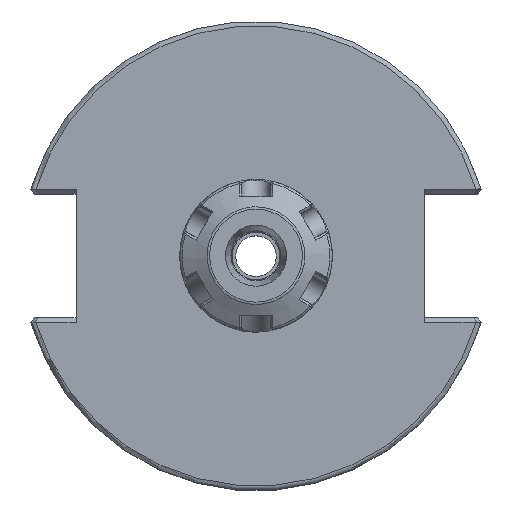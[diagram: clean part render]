
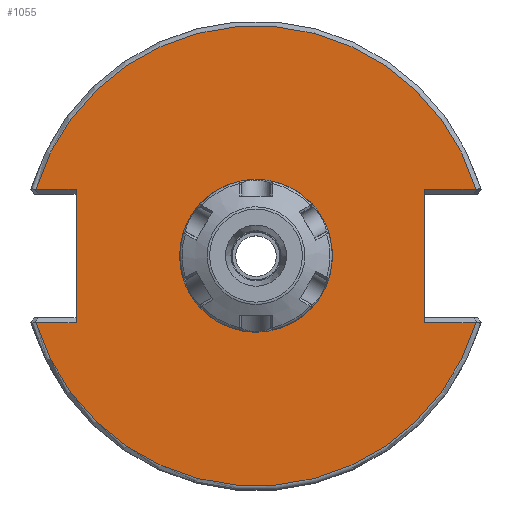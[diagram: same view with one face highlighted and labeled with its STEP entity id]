
A CAD part, top view. The second image highlights one B-rep face of the part: STEP entity #1055.
In plain terms, the highlighted planar face has unit normal (0, 0, 1).
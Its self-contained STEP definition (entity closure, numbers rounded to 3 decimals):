
#374=PLANE('',#3199);
#756=LINE('',#4324,#894);
#757=LINE('',#4326,#895);
#758=LINE('',#4328,#896);
#759=LINE('',#4332,#897);
#760=LINE('',#4334,#898);
#761=LINE('',#4336,#899);
#894=VECTOR('',#3495,1.);
#895=VECTOR('',#3496,1.);
#896=VECTOR('',#3497,1.);
#897=VECTOR('',#3500,1.);
#898=VECTOR('',#3501,1.);
#899=VECTOR('',#3502,1.);
#1055=ADVANCED_FACE('',(#1259,#1260),#374,.T.);
#1259=FACE_BOUND('',#1380,.T.);
#1260=FACE_BOUND('',#1381,.T.);
#1380=EDGE_LOOP('',(#1663));
#1381=EDGE_LOOP('',(#1664,#1665,#1666,#1667,#1668,#1669,#1670,#1671));
#1663=ORIENTED_EDGE('',*,*,#2724,.T.);
#1664=ORIENTED_EDGE('',*,*,#2725,.T.);
#1665=ORIENTED_EDGE('',*,*,#2726,.T.);
#1666=ORIENTED_EDGE('',*,*,#2727,.T.);
#1667=ORIENTED_EDGE('',*,*,#2728,.T.);
#1668=ORIENTED_EDGE('',*,*,#2729,.T.);
#1669=ORIENTED_EDGE('',*,*,#2730,.F.);
#1670=ORIENTED_EDGE('',*,*,#2731,.T.);
#1671=ORIENTED_EDGE('',*,*,#2716,.T.);
#2438=VERTEX_POINT('',#4238);
#2439=VERTEX_POINT('',#4240);
#2442=VERTEX_POINT('',#4323);
#2443=VERTEX_POINT('',#4325);
#2444=VERTEX_POINT('',#4327);
#2445=VERTEX_POINT('',#4329);
#2446=VERTEX_POINT('',#4331);
#2447=VERTEX_POINT('',#4333);
#2448=VERTEX_POINT('',#4335);
#2716=EDGE_CURVE('',#2439,#2438,#3089,.T.);
#2724=EDGE_CURVE('',#2442,#2442,#3090,.T.);
#2725=EDGE_CURVE('',#2438,#2443,#756,.T.);
#2726=EDGE_CURVE('',#2443,#2444,#757,.T.);
#2727=EDGE_CURVE('',#2444,#2445,#758,.T.);
#2728=EDGE_CURVE('',#2445,#2446,#3091,.T.);
#2729=EDGE_CURVE('',#2446,#2447,#759,.T.);
#2730=EDGE_CURVE('',#2448,#2447,#760,.T.);
#2731=EDGE_CURVE('',#2448,#2439,#761,.T.);
#3089=CIRCLE('',#3193,48.215);
#3090=CIRCLE('',#3197,15.);
#3091=CIRCLE('',#3198,48.215);
#3193=AXIS2_PLACEMENT_3D('',#4239,#3485,#3486);
#3197=AXIS2_PLACEMENT_3D('',#4322,#3493,#3494);
#3198=AXIS2_PLACEMENT_3D('',#4330,#3498,#3499);
#3199=AXIS2_PLACEMENT_3D('',#4337,#3503,#3504);
#3485=DIRECTION('',(0.,0.,1.));
#3486=DIRECTION('',(1.,0.,0.));
#3493=DIRECTION('',(0.,0.,-1.));
#3494=DIRECTION('',(1.,0.,0.));
#3495=DIRECTION('',(-1.,0.,0.));
#3496=DIRECTION('',(0.,1.,0.));
#3497=DIRECTION('',(1.,0.,0.));
#3498=DIRECTION('',(0.,0.,1.));
#3499=DIRECTION('',(1.,0.,0.));
#3500=DIRECTION('',(1.,0.,0.));
#3501=DIRECTION('',(0.,1.,0.));
#3502=DIRECTION('',(-1.,0.,0.));
#3503=DIRECTION('',(0.,0.,1.));
#3504=DIRECTION('',(-1.,0.,0.));
#4238=CARTESIAN_POINT('',(46.151,-13.955,120.65));
#4239=CARTESIAN_POINT('',(0.,0.,120.65));
#4240=CARTESIAN_POINT('',(-46.151,-13.955,120.65));
#4322=CARTESIAN_POINT('',(0.,0.,120.65));
#4323=CARTESIAN_POINT('',(15.,0.,120.65));
#4324=CARTESIAN_POINT('',(0.,-13.955,120.65));
#4325=CARTESIAN_POINT('',(35.31,-13.955,120.65));
#4326=CARTESIAN_POINT('',(35.31,-49.215,120.65));
#4327=CARTESIAN_POINT('',(35.31,13.955,120.65));
#4328=CARTESIAN_POINT('',(0.,13.955,120.65));
#4329=CARTESIAN_POINT('',(46.151,13.955,120.65));
#4330=CARTESIAN_POINT('',(0.,0.,120.65));
#4331=CARTESIAN_POINT('',(-46.151,13.955,120.65));
#4332=CARTESIAN_POINT('',(-37.72,13.955,120.65));
#4333=CARTESIAN_POINT('',(-37.72,13.955,120.65));
#4334=CARTESIAN_POINT('',(-37.72,-49.215,120.65));
#4335=CARTESIAN_POINT('',(-37.72,-13.955,120.65));
#4336=CARTESIAN_POINT('',(-46.442,-13.955,120.65));
#4337=CARTESIAN_POINT('',(0.,-49.215,120.65));
